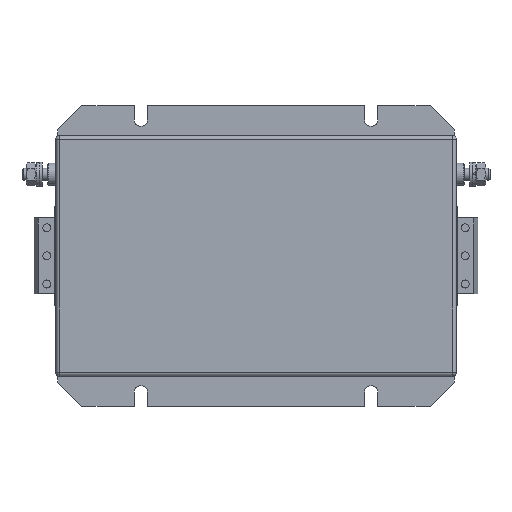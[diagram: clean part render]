
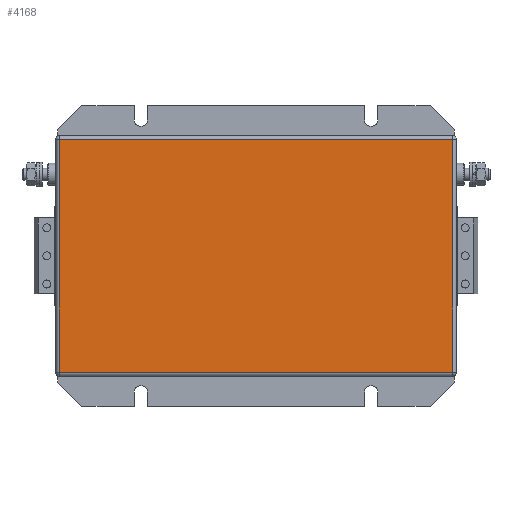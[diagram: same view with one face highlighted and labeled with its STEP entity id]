
A CAD part, top view. The second image highlights one B-rep face of the part: STEP entity #4168.
In plain terms, the highlighted planar face has unit normal (0, 0, 1).
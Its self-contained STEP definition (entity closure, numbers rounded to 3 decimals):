
#3769=CARTESIAN_POINT('',(-98.2,58.2,65.0));
#3770=VERTEX_POINT('',#3769);
#3842=CARTESIAN_POINT('',(-98.2,-58.2,65.0));
#3843=VERTEX_POINT('',#3842);
#3917=CARTESIAN_POINT('',(98.2,58.2,65.0));
#3918=VERTEX_POINT('',#3917);
#3993=CARTESIAN_POINT('',(-98.2,58.2,65.0));
#3994=DIRECTION('',(1.0,0.0,0.0));
#3995=VECTOR('',#3994,196.4);
#3996=LINE('',#3993,#3995);
#3997=EDGE_CURVE('',#3770,#3918,#3996,.T.);
#4016=CARTESIAN_POINT('',(98.2,-58.2,65.0));
#4017=VERTEX_POINT('',#4016);
#4090=CARTESIAN_POINT('',(98.2,58.2,65.0));
#4091=DIRECTION('',(0.0,-1.0,0.0));
#4092=VECTOR('',#4091,116.4);
#4093=LINE('',#4090,#4092);
#4094=EDGE_CURVE('',#3918,#4017,#4093,.T.);
#4107=CARTESIAN_POINT('',(98.2,-58.2,65.0));
#4108=DIRECTION('',(-1.0,0.0,0.0));
#4109=VECTOR('',#4108,196.4);
#4110=LINE('',#4107,#4109);
#4111=EDGE_CURVE('',#4017,#3843,#4110,.T.);
#4129=CARTESIAN_POINT('',(-98.2,-58.2,65.0));
#4130=DIRECTION('',(0.0,1.0,0.0));
#4131=VECTOR('',#4130,116.4);
#4132=LINE('',#4129,#4131);
#4133=EDGE_CURVE('',#3843,#3770,#4132,.T.);
#4157=CARTESIAN_POINT('',(0.,0.,65.0));
#4158=DIRECTION('',(0.0,0.0,1.0));
#4159=DIRECTION('',(1.0,0.0,0.0));
#4160=AXIS2_PLACEMENT_3D('',#4157,#4158,#4159);
#4161=PLANE('',#4160);
#4162=ORIENTED_EDGE('',*,*,#3997,.F.);
#4163=ORIENTED_EDGE('',*,*,#4133,.F.);
#4164=ORIENTED_EDGE('',*,*,#4111,.F.);
#4165=ORIENTED_EDGE('',*,*,#4094,.F.);
#4166=EDGE_LOOP('',(#4162,#4163,#4164,#4165));
#4167=FACE_OUTER_BOUND('',#4166,.T.);
#4168=ADVANCED_FACE('',(#4167),#4161,.T.);
